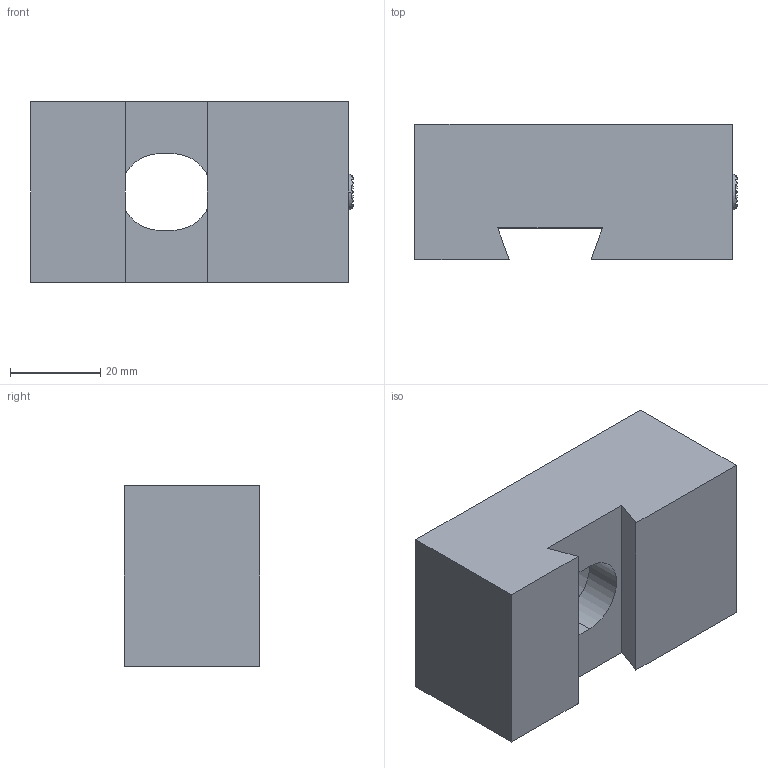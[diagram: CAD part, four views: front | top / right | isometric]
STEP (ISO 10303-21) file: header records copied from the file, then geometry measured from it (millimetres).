
FILE_DESCRIPTION((''),'2;1');
FILE_NAME('FG_WH_WEDCL_SALWCNP001','2026-06-10T11:37:31',('Admin'),(''),'CREO PARAMETRIC BY PTC INC, 2025010','CREO PARAMETRIC BY PTC INC, 2025010','');
FILE_SCHEMA(('CONFIG_CONTROL_DESIGN'));
Length unit declared in the file: metre
Products named in the file (1): FG_WH_WEDCL_SALWCNP001
Bounding box: 71.5 x 30 x 40 mm (x, y, z)
Volume: 67213.7 mm3; surface area: 15250.3 mm2
Topology: 1 solids, 3 shells, 491 faces, 1321 edges, 871 vertices
Faces by surface type: plane 465, cylinder 14, cone 10, sphere 2
Entity records: 15241 total; most frequent: CARTESIAN_POINT 2739, ORIENTED_EDGE 2630, DIRECTION 2455, EDGE_CURVE 1317, VECTOR 1153, LINE 1153, VERTEX_POINT 871, AXIS2_PLACEMENT_3D 651
